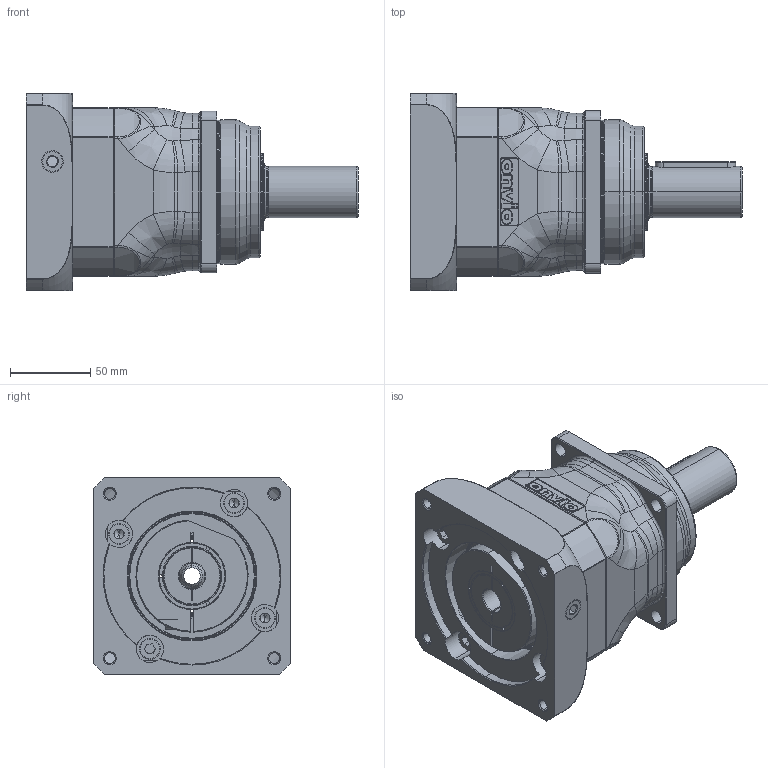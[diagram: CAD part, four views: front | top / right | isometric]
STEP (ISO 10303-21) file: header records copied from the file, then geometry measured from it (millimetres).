
FILE_DESCRIPTION (( 'STEP AP214' ), '1' );
FILE_NAME ('AH-030-0RR-FFF-MMM-S-LL-XXX-BXX-0000.STEP', '2019-10-11T20:28:01', ( '' ), ( '' ), 'SwSTEP 2.0', 'SolidWorks 2019', '' );
FILE_SCHEMA (( 'AUTOMOTIVE_DESIGN' ));
Length unit declared in the file: millimetre
Products named in the file (1): AH-030-0RR-FFF-MMM-S-LL-XXX-BXX-0000
Bounding box: 207 x 123 x 123 mm (x, y, z)
Surface area: 128509.7 mm2 (no closed solid volume)
Topology: 0 solids, 74 shells, 891 faces, 3629 edges, 2755 vertices
Faces by surface type: cylinder 279, plane 244, torus 173, cone 103, bspline 92
Entity records: 58297 total; most frequent: CARTESIAN_POINT 20468, DIRECTION 5434, ORIENTED_EDGE 5225, EDGE_CURVE 3617, VERTEX_POINT 2755, AXIS2_PLACEMENT_3D 1950, LINE 1534, VECTOR 1534
